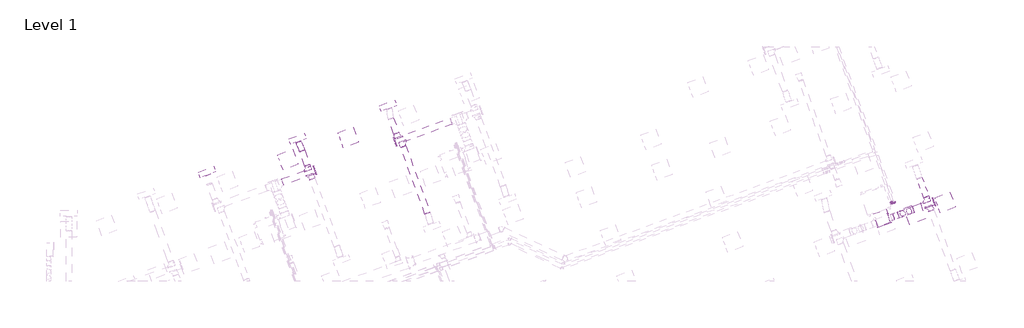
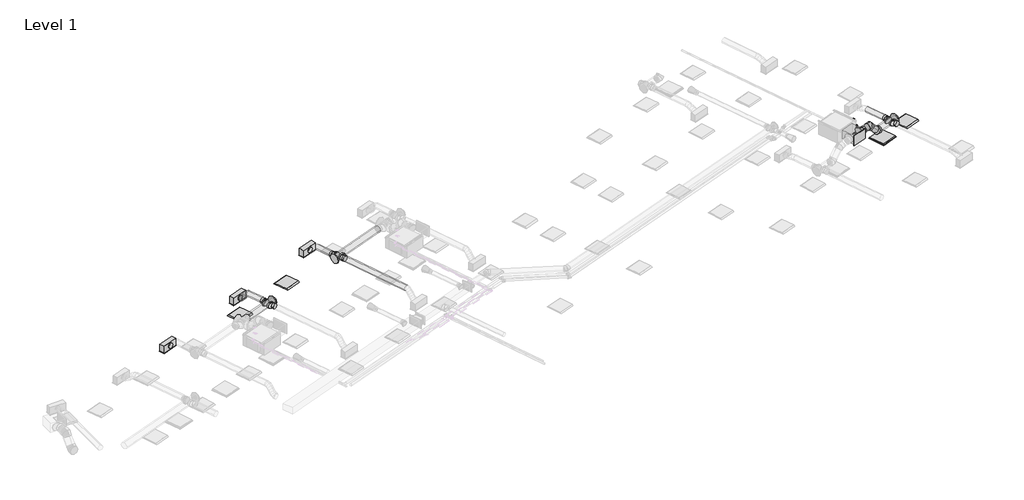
# One storey, part 26 of 30: 13 duct fittings, 11 duct segments, 6 pipe fittings, 4 air terminals, 4 pipe segments, 3 light fixtures.
"""IFC4 building model written with IfcOpenShell, lengths in millimetres."""

from ifc_helpers import new_model, si_unit, point, frame, frame_2d, origin, place, context, project, spatial, polyline, circle_curve, ellipse_curve, trimmed, segment, composite_curve, outline, extrude, transform, mapped, element, save
from ifc_brep_helpers import plane_surface, cylinder_surface, advanced_brep
from components import return_grille_rectangular_hosted_standard_7b12617c, supply_diffuser_with_plenum_linear_slot_hosted_2b730595, dw144_rectangular_blank_end_standard_1669e3e3, dw144_round_blank_end_standard_e3d0b58b, dw144_round_segmented_bend_slip_joint_standard_636bd9c1, dw144_round_shoe_branch_slip_joint1_standard_2_15a2edd8, dw144_round_shoe_branch_slip_joint1_standard_2_559552f4, dw144_round_shoe_branch_slip_joint1_standard_2_4a92c8a1, light_fixture_1c7c1157, elbow_threaded_gmi_standard_b4aa7741, socket_reducing_threaded_gmi_standard_0a4076b8

model = new_model("IFC4")

# Units and contexts
model_context = context("Model", 3, world=origin())
ifc_project = project(units=[si_unit("LENGTHUNIT", "METRE", prefix="MILLI")], contexts=[model_context])

# Site, building, storey
site = spatial("IfcSite", under=ifc_project)
building = spatial("IfcBuilding", under=site)
storey = spatial("IfcBuildingStorey", under=building, Name="Level 1", Elevation=3900.0)

# Air terminals
placement = place(None, origin())
return_grille_rectangular_hosted_standard_shape = return_grille_rectangular_hosted_standard_7b12617c(model_context)
element("IfcAirTerminal", 1, ObjectType="Return Grille - Rectangular - Hosted : Standard", at=placement, inside=storey, context=model_context, shape_type="MappedRepresentation", body=[
    mapped(return_grille_rectangular_hosted_standard_shape, transform((62341.090285, 14748.7465668, 6700.0), x_axis=(0.939692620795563, 0.3420201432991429, 0.0), y_axis=(0.3420201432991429, -0.939692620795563, 0.0), z_axis=(0.0, 0.0, -1.0))),
])
supply_diffuser_with_plenum_linear_slot_hosted_shape = supply_diffuser_with_plenum_linear_slot_hosted_2b730595(model_context)
element("IfcAirTerminal", 2, ObjectType="Supply Diffuser with Plenum - Linear Slot - Hosted : 24\" x 8\"-200 In Inlet  4-Slot", at=placement, inside=storey, context=model_context, shape_type="MappedRepresentation", body=[
    mapped(supply_diffuser_with_plenum_linear_slot_hosted_shape, transform((35915.3297037, 16300.7234338, 6500.0), x_axis=(-0.9396926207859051, -0.3420201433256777, 0.0), y_axis=(-0.3420201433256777, 0.9396926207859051, 0.0), z_axis=(0.0, 0.0, -1.0))),
])
element("IfcAirTerminal", 3, ObjectType="Supply Diffuser with Plenum - Linear Slot - Hosted : 24\" x 8\"-200 In Inlet  4-Slot", at=placement, inside=storey, context=model_context, shape_type="MappedRepresentation", body=[
    mapped(supply_diffuser_with_plenum_linear_slot_hosted_shape, transform((39293.7706156, 17542.574693, 6500.0), x_axis=(-0.9396926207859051, -0.3420201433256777, 0.0), y_axis=(-0.3420201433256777, 0.9396926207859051, 0.0), z_axis=(0.0, 0.0, -1.0))),
])
element("IfcAirTerminal", 4, ObjectType="Supply Diffuser with Plenum - Linear Slot - Hosted : 24\" x 8\"-200 In Inlet  4-Slot", at=placement, inside=storey, context=model_context, shape_type="MappedRepresentation", body=[
    mapped(supply_diffuser_with_plenum_linear_slot_hosted_shape, transform((42674.4758588, 18775.4888623, 6500.0), x_axis=(-0.9396926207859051, -0.3420201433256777, 0.0), y_axis=(-0.3420201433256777, 0.9396926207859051, 0.0), z_axis=(0.0, 0.0, -1.0))),
])

# Duct fittings
dw144_rectangular_blank_end_standard_shape = dw144_rectangular_blank_end_standard_1669e3e3(model_context)
element("IfcDuctFitting", 5, ObjectType="DW144 Rectangular Blank End : Standard", at=placement, inside=storey, context=model_context, shape_type="MappedRepresentation", body=[
    mapped(dw144_rectangular_blank_end_standard_shape, transform((61207.3958712, 14336.1155454, 7369.575), x_axis=(0.34202014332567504, -0.9396926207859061, 0.0), y_axis=(0.9396926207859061, 0.34202014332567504, 0.0), z_axis=(0.0, 0.0, 1.0))),
])
dw144_round_blank_end_standard_shape = dw144_round_blank_end_standard_e3d0b58b(model_context)
element("IfcDuctFitting", 6, ObjectType="DW144 Round Blank End : Standard", at=placement, inside=storey, context=model_context, shape_type="MappedRepresentation", body=[
    mapped(dw144_round_blank_end_standard_shape, transform((39936.3185675, 16357.4162175, 6972.2088531), x_axis=(0.9396926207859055, 0.3420201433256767, 0.0), y_axis=(-0.3420201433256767, 0.9396926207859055, 0.0), z_axis=(0.0, 0.0, 1.0))),
])
element("IfcDuctFitting", 7, ObjectType="DW144 Round Blank End : Standard", at=placement, inside=storey, context=model_context, shape_type="MappedRepresentation", body=[
    mapped(dw144_round_blank_end_standard_shape, transform((42948.5285031, 17437.6115173, 6972.2088531), x_axis=(-0.9396926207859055, -0.3420201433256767, 0.0), y_axis=(0.3420201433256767, -0.9396926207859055, 0.0), z_axis=(0.0, 0.0, 1.0))),
])
element("IfcDuctFitting", 8, ObjectType="DW144 Round Blank End : Standard", at=placement, inside=storey, context=model_context, shape_type="MappedRepresentation", body=[
    mapped(dw144_round_blank_end_standard_shape, transform((63040.2710121, 15178.5710827, 6972.2088531), x_axis=(0.9396926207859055, 0.3420201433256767, 0.0), y_axis=(-0.3420201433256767, 0.9396926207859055, 0.0), z_axis=(0.0, 0.0, 1.0))),
])
dw144_round_segmented_bend_slip_joint_standard_shape = dw144_round_segmented_bend_slip_joint_standard_636bd9c1(model_context)
element("IfcDuctFitting", 9, ObjectType="DW144 Round Segmented Bend - Slip Joint : Standard", at=placement, inside=storey, context=model_context, shape_type="MappedRepresentation", body=[
    mapped(dw144_round_segmented_bend_slip_joint_standard_shape, transform((62192.3208978, 14869.9424809, 6972.2088531), x_axis=(0.6644630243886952, 0.24184476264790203, -0.7071067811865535), y_axis=(0.6644630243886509, 0.2418447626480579, 0.7071067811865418), z_axis=(0.3420201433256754, -0.939692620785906, 0.0))),
])
element("IfcDuctFitting", 10, ObjectType="DW144 Round Segmented Bend - Slip Joint : Standard", at=placement, inside=storey, context=model_context, shape_type="MappedRepresentation", body=[
    mapped(dw144_round_segmented_bend_slip_joint_standard_shape, transform((61818.9188618, 14734.0352544, 7369.575), x_axis=(0.9396926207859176, 0.3420201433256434, 0.0), y_axis=(0.0, 0.0, -1.0), z_axis=(-0.3420201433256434, 0.9396926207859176, 0.0))),
])
dw144_round_shoe_branch_slip_joint1_standard_2_shape = dw144_round_shoe_branch_slip_joint1_standard_2_15a2edd8(model_context)
element("IfcDuctFitting", 11, ObjectType="DW144 Round Shoe Branch - Slip Joint1 : Standard 2", at=placement, inside=storey, context=model_context, shape_type="MappedRepresentation", body=[
    mapped(dw144_round_shoe_branch_slip_joint1_standard_2_shape, transform((39717.3209662, 16410.7298308, 6972.2088531), x_axis=(-0.3420201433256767, 0.9396926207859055, 0.0), y_axis=(0.9396926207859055, 0.3420201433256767, 0.0), z_axis=(0.0, 0.0, -1.0))),
])
element("IfcDuctFitting", 12, ObjectType="DW144 Round Shoe Branch - Slip Joint1 : Standard 2", at=placement, inside=storey, context=model_context, shape_type="MappedRepresentation", body=[
    mapped(dw144_round_shoe_branch_slip_joint1_standard_2_shape, transform((39802.826002, 16175.8066756, 6972.2088531), x_axis=(0.3420201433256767, -0.9396926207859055, 0.0), y_axis=(0.9396926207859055, 0.3420201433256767, 0.0), z_axis=(0.0, 0.0, 1.0))),
])
element("IfcDuctFitting", 13, ObjectType="DW144 Round Shoe Branch - Slip Joint1 : Standard 2", at=placement, inside=storey, context=model_context, shape_type="MappedRepresentation", body=[
    mapped(dw144_round_shoe_branch_slip_joint1_standard_2_shape, transform((62821.2734108, 15231.884696, 6972.2088531), x_axis=(-0.3420201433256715, 0.9396926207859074, 0.0), y_axis=(0.9396926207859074, 0.3420201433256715, 0.0), z_axis=(0.0, 0.0, -1.0))),
])
element("IfcDuctFitting", 14, ObjectType="DW144 Round Shoe Branch - Slip Joint1 : Standard 2", at=placement, inside=storey, context=model_context, shape_type="MappedRepresentation", body=[
    mapped(dw144_round_shoe_branch_slip_joint1_standard_2_shape, transform((62906.7784467, 14996.9615408, 6972.2088531), x_axis=(0.3420201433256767, -0.9396926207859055, 0.0), y_axis=(0.9396926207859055, 0.3420201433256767, 0.0), z_axis=(0.0, 0.0, 1.0))),
])
dw144_round_shoe_branch_slip_joint1_standard_2_2_shape = dw144_round_shoe_branch_slip_joint1_standard_2_559552f4(model_context)
element("IfcDuctFitting", 15, ObjectType="DW144 Round Shoe Branch - Slip Joint1 : Standard 2", at=placement, inside=storey, context=model_context, shape_type="MappedRepresentation", body=[
    mapped(dw144_round_shoe_branch_slip_joint1_standard_2_2_shape, transform((43036.855796, 17602.7822443, 6972.2088531), x_axis=(-0.3420201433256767, 0.9396926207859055, 0.0), y_axis=(0.9396926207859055, 0.3420201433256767, 0.0), z_axis=(0.0, 0.0, -1.0))),
])
element("IfcDuctFitting", 16, ObjectType="DW144 Round Shoe Branch - Slip Joint1 : Standard 2", at=placement, inside=storey, context=model_context, shape_type="MappedRepresentation", body=[
    mapped(dw144_round_shoe_branch_slip_joint1_standard_2_2_shape, transform((43190.912986, 17392.8100327, 6972.2088531), x_axis=(0.3420201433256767, -0.9396926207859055, 0.0), y_axis=(0.9396926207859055, 0.3420201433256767, 0.0), z_axis=(0.0, 0.0, 1.0))),
])
dw144_round_shoe_branch_slip_joint1_standard_2_3_shape = dw144_round_shoe_branch_slip_joint1_standard_2_4a92c8a1(model_context)
element("IfcDuctFitting", 17, ObjectType="DW144 Round Shoe Branch - Slip Joint1 : Standard 2", at=placement, inside=storey, context=model_context, shape_type="MappedRepresentation", body=[
    mapped(dw144_round_shoe_branch_slip_joint1_standard_2_3_shape, transform((61385.964698, 14576.452826, 7369.575), x_axis=(0.9396926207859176, 0.3420201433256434, 0.0), y_axis=(0.3420201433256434, -0.9396926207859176, 0.0), z_axis=(0.0, 0.0, -1.0))),
])

# Duct segments
element("IfcDuctSegment", 18, ObjectType="DW144 Flanged Med Radius Bend / Shoe Branch", at=placement, inside=storey, context=model_context, shape_type="SweptSolid", body=[
    extrude(outline(polyline([(60794.7590495, 14738.8747953), (61264.6053599, 14909.884867), (61442.3190264, 14421.6205812), (60972.472716, 14250.6105095), (60794.7590495, 14738.8747953)])), frame((0.0, 0.0, 7194.575), z_axis=(0.0, 0.0, 1.0), x_axis=(1.0, 0.0, 0.0)), (0.0, 0.0, 1.0), 350.0),
])
element("IfcDuctSegment", 19, ObjectType="DW144 Segmented Bend / Shoe Branch", at=placement, inside=storey, context=model_context, shape_type="SweptSolid", body=[
    extrude(outline(composite_curve([segment(trimmed(circle_curve(frame_2d((0.0, 125.0)), 125.0), [point((125.0, 125.0))], [point((0.0, 0.0))], False, "CARTESIAN"), True, "CONTINUOUS"), segment(trimmed(circle_curve(frame_2d((0.0, 125.0)), 125.0), [point((0.0, 0.0))], [point((-125.0, 125.0))], False, "CARTESIAN"), True, "CONTINUOUS"), segment(trimmed(circle_curve(frame_2d((0.0, 125.0)), 125.0), [point((-125.0, 125.0))], [point((0.0, 250.0))], False, "CARTESIAN"), True, "CONTINUOUS"), segment(trimmed(circle_curve(frame_2d((0.0, 125.0)), 125.0), [point((0.0, 250.0))], [point((125.0, 125.0))], False, "CARTESIAN"), True, "CONTINUOUS")], self_intersect=False)), frame((38741.1276812, 15922.4023106, 7097.2088531), z_axis=(0.9396926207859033, 0.3420201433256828, 0.0), x_axis=(0.3420201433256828, -0.9396926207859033, 0.0)), (0.0, 0.0, 1.0), 1271.8955751),
])
element("IfcDuctSegment", 20, ObjectType="DW144 Segmented Bend / Shoe Branch", at=placement, inside=storey, context=model_context, shape_type="SweptSolid", body=[
    extrude(outline(composite_curve([segment(trimmed(circle_curve(frame_2d((0.0, 100.0)), 100.0), [point((100.0, 100.0))], [point((0.0, 0.0))], False, "CARTESIAN"), True, "CONTINUOUS"), segment(trimmed(circle_curve(frame_2d((0.0, 100.0)), 100.0), [point((0.0, 0.0))], [point((-100.0, 100.0))], False, "CARTESIAN"), True, "CONTINUOUS"), segment(trimmed(circle_curve(frame_2d((0.0, 100.0)), 100.0), [point((-100.0, 100.0))], [point((0.0, 200.0))], False, "CARTESIAN"), True, "CONTINUOUS"), segment(trimmed(circle_curve(frame_2d((0.0, 100.0)), 100.0), [point((0.0, 200.0))], [point((100.0, 100.0))], False, "CARTESIAN"), True, "CONTINUOUS")], self_intersect=False)), frame((39666.0179447, 16551.683724, 7072.2088531), z_axis=(-0.3420201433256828, 0.9396926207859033, 0.0), x_axis=(0.9396926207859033, 0.3420201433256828, 0.0)), (0.0, 0.0, 1.0), 574.8150783),
])
element("IfcDuctSegment", 21, ObjectType="DW144 Segmented Bend / Shoe Branch", at=placement, inside=storey, context=model_context, shape_type="SweptSolid", body=[
    extrude(outline(composite_curve([segment(trimmed(circle_curve(frame_2d((0.0, -125.0)), 125.0), [point((-125.0, -125.0))], [point((0.0, 0.0))], False, "CARTESIAN"), True, "CONTINUOUS"), segment(trimmed(circle_curve(frame_2d((0.0, -125.0)), 125.0), [point((0.0, 0.0))], [point((125.0, -125.0))], False, "CARTESIAN"), True, "CONTINUOUS"), segment(trimmed(circle_curve(frame_2d((0.0, -125.0)), 125.0), [point((125.0, -125.0))], [point((0.0, -250.0))], False, "CARTESIAN"), True, "CONTINUOUS"), segment(trimmed(circle_curve(frame_2d((0.0, -125.0)), 125.0), [point((0.0, -250.0))], [point((-125.0, -125.0))], False, "CARTESIAN"), True, "CONTINUOUS")], self_intersect=False)), frame((42948.5285031, 17437.6115173, 6847.2088531), z_axis=(0.9396926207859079, 0.3420201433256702, 0.0), x_axis=(0.3420201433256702, -0.9396926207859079, 0.0)), (0.0, 0.0, 1.0), 2211.3668834),
])
element("IfcDuctSegment", 22, ObjectType="DW144 Segmented Bend / Shoe Branch", at=placement, inside=storey, context=model_context, shape_type="SweptSolid", body=[
    extrude(outline(composite_curve([segment(trimmed(circle_curve(frame_2d((0.0, -100.0)), 100.0), [point((-100.0, -100.0))], [point((0.0, 0.0))], False, "CARTESIAN"), True, "CONTINUOUS"), segment(trimmed(circle_curve(frame_2d((0.0, -100.0)), 100.0), [point((0.0, 0.0))], [point((100.0, -100.0))], False, "CARTESIAN"), True, "CONTINUOUS"), segment(trimmed(circle_curve(frame_2d((0.0, -100.0)), 100.0), [point((100.0, -100.0))], [point((0.0, -200.0))], False, "CARTESIAN"), True, "CONTINUOUS"), segment(trimmed(circle_curve(frame_2d((0.0, -100.0)), 100.0), [point((0.0, -200.0))], [point((-100.0, -100.0))], False, "CARTESIAN"), True, "CONTINUOUS")], self_intersect=False)), frame((42985.5527745, 17743.7361374, 6872.2088531), z_axis=(-0.34202014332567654, 0.9396926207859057, 0.0), x_axis=(0.9396926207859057, 0.34202014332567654, 0.0)), (0.0, 0.0, 1.0), 590.0),
])
element("IfcDuctSegment", 23, ObjectType="DW144 Segmented Bend / Shoe Branch", at=placement, inside=storey, context=model_context, shape_type="SweptSolid", body=[
    extrude(outline(composite_curve([segment(trimmed(circle_curve(frame_2d((0.0, 100.0)), 100.0), [point((100.0, 100.0))], [point((0.0, 0.0))], False, "CARTESIAN"), True, "CONTINUOUS"), segment(trimmed(circle_curve(frame_2d((0.0, 100.0)), 100.0), [point((0.0, 0.0))], [point((-100.0, 100.0))], False, "CARTESIAN"), True, "CONTINUOUS"), segment(trimmed(circle_curve(frame_2d((0.0, 100.0)), 100.0), [point((-100.0, 100.0))], [point((0.0, 200.0))], False, "CARTESIAN"), True, "CONTINUOUS"), segment(trimmed(circle_curve(frame_2d((0.0, 100.0)), 100.0), [point((0.0, 200.0))], [point((100.0, 100.0))], False, "CARTESIAN"), True, "CONTINUOUS")], self_intersect=False)), frame((44148.5693873, 14761.6706945, 7072.2088531), z_axis=(-0.34202014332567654, 0.9396926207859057, 0.0), x_axis=(0.9396926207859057, 0.34202014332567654, 0.0)), (0.0, 0.0, 1.0), 2650.0),
])
element("IfcDuctSegment", 24, ObjectType="DW144 Segmented Bend / Shoe Branch", at=placement, inside=storey, context=model_context, shape_type="SweptSolid", body=[
    extrude(outline(composite_curve([segment(trimmed(circle_curve(frame_2d((0.0, -125.0)), 125.0), [point((-125.0, -125.0))], [point((0.0, 0.0))], False, "CARTESIAN"), True, "CONTINUOUS"), segment(trimmed(circle_curve(frame_2d((0.0, -125.0)), 125.0), [point((0.0, 0.0))], [point((125.0, -125.0))], False, "CARTESIAN"), True, "CONTINUOUS"), segment(trimmed(circle_curve(frame_2d((0.0, -125.0)), 125.0), [point((125.0, -125.0))], [point((0.0, -250.0))], False, "CARTESIAN"), True, "CONTINUOUS"), segment(trimmed(circle_curve(frame_2d((0.0, -125.0)), 125.0), [point((0.0, -250.0))], [point((-125.0, -125.0))], False, "CARTESIAN"), True, "CONTINUOUS")], self_intersect=False)), frame((62289.6292548, 14905.3598264, 6847.2088531), z_axis=(0.9396926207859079, 0.3420201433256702, 0.0), x_axis=(0.3420201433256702, -0.9396926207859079, 0.0)), (0.0, 0.0, 1.0), 798.8162732),
])
element("IfcDuctSegment", 25, ObjectType="DW144 Segmented Bend / Shoe Branch", at=placement, inside=storey, context=model_context, shape_type="SweptSolid", body=[
    extrude(outline(composite_curve([segment(trimmed(circle_curve(frame_2d((0.0, 100.0)), 100.0), [point((100.0, 100.0))], [point((0.0, 0.0))], False, "CARTESIAN"), True, "CONTINUOUS"), segment(trimmed(circle_curve(frame_2d((0.0, 100.0)), 100.0), [point((0.0, 0.0))], [point((-100.0, 100.0))], False, "CARTESIAN"), True, "CONTINUOUS"), segment(trimmed(circle_curve(frame_2d((0.0, 100.0)), 100.0), [point((-100.0, 100.0))], [point((0.0, 200.0))], False, "CARTESIAN"), True, "CONTINUOUS"), segment(trimmed(circle_curve(frame_2d((0.0, 100.0)), 100.0), [point((0.0, 200.0))], [point((100.0, 100.0))], False, "CARTESIAN"), True, "CONTINUOUS")], self_intersect=False)), frame((62769.9703893, 15372.8385891, 7072.2088531), z_axis=(-0.3420201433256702, 0.9396926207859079, 0.0), x_axis=(0.9396926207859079, 0.3420201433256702, 0.0)), (0.0, 0.0, 1.0), 750.0),
])
element("IfcDuctSegment", 26, ObjectType="DW144 Segmented Bend / Shoe Branch", at=placement, inside=storey, context=model_context, shape_type="SweptSolid", body=[
    extrude(outline(composite_curve([segment(trimmed(circle_curve(frame_2d((0.0, 125.0)), 125.0), [point((125.0, 125.0))], [point((0.0, 0.0))], False, "CARTESIAN"), True, "CONTINUOUS"), segment(trimmed(circle_curve(frame_2d((0.0, 125.0)), 125.0), [point((0.0, 0.0))], [point((-125.0, 125.0))], False, "CARTESIAN"), True, "CONTINUOUS"), segment(trimmed(circle_curve(frame_2d((0.0, 125.0)), 125.0), [point((-125.0, 125.0))], [point((0.0, 250.0))], False, "CARTESIAN"), True, "CONTINUOUS"), segment(trimmed(circle_curve(frame_2d((0.0, 125.0)), 125.0), [point((0.0, 250.0))], [point((125.0, 125.0))], False, "CARTESIAN"), True, "CONTINUOUS")], self_intersect=False)), frame((61550.4109066, 14636.3063511, 7494.575), z_axis=(0.9396926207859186, 0.3420201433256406, 0.0), x_axis=(0.3420201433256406, -0.9396926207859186, 0.0)), (0.0, 0.0, 1.0), 182.1868071),
])
element("IfcDuctSegment", 27, ObjectType="DW144 Segmented Bend / Shoe Branch", at=placement, inside=storey, context=model_context, shape_type="SweptSolid", body=[
    extrude(outline(composite_curve([segment(trimmed(circle_curve(frame_2d((0.0, -125.0)), 125.0), [point((57.2076922, -236.1408113))], [point((-111.1408113, -182.2076923))], False, "CARTESIAN"), True, "CONTINUOUS"), segment(trimmed(circle_curve(frame_2d((0.0, -125.0)), 125.0), [point((-111.1408113, -182.2076923))], [point((-57.2076923, -13.8591886))], False, "CARTESIAN"), True, "CONTINUOUS"), segment(trimmed(circle_curve(frame_2d((0.0, -125.0)), 125.0), [point((-57.2076923, -13.8591886))], [point((111.1408113, -67.7923077))], False, "CARTESIAN"), True, "CONTINUOUS"), segment(trimmed(circle_curve(frame_2d((0.0, -125.0)), 125.0), [point((111.1408113, -67.7923077))], [point((57.2076922, -236.1408113))], False, "CARTESIAN"), True, "CONTINUOUS")], self_intersect=False)), frame((62123.5134987, 14963.1722168, 7085.884105), z_axis=(-0.6644630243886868, -0.2418447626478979, 0.7071067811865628), x_axis=(0.7473211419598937, -0.21503058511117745, 0.6287073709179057)), (0.0, 0.0, 1.0), 354.8538129),
])
element("IfcDuctSegment", 28, ObjectType="Flex - Round", at=placement, inside=storey, context=model_context, shape_type="AdvancedBrep", body=[
    advanced_brep(
    [(39375.4503472, 17057.631197, 6972.2088531), (39469.4196093, 17091.8332113, 6872.2088531), (39563.3888713, 17126.0352256, 6972.2088531), (39469.4196093, 17091.8332113, 7072.2088531), (39366.3301142, 17082.6888311, 6972.2088531), (39468.3328328, 17094.819105, 6872.2088531), (39553.698373, 17152.659651, 6972.2088531), (39451.6956544, 17140.5293771, 7072.2088531), (39243.2379118, 17389.0317158, 6654.4), (39337.2071738, 17423.2337302, 6754.4), (39431.1764359, 17457.4357445, 6654.4), (39337.2071738, 17423.2337302, 6554.4), (39354.5213218, 17113.4271666, 6955.185411), (39467.8816463, 17095.9935454, 6871.5584269), (39541.0833461, 17185.4966182, 6954.0231511), (39427.7230216, 17202.9302395, 7037.6501352), (39335.857994, 17160.2082162, 6910.3229836), (39455.5339882, 17126.943889, 6841.8774438), (39521.9716923, 17233.4014312, 6908.0830491), (39402.2956981, 17266.6657584, 6976.5285889), (39318.7177747, 17201.1185794, 6848.6374231), (39441.476074, 17160.4973904, 6791.284724), (39504.6126715, 17274.8340307, 6845.6100489), (39381.8543722, 17315.4552197, 6902.962748), (39302.0141116, 17240.2329107, 6780.9988043), (39424.7724109, 17199.6117217, 6723.6461052), (39487.9090084, 17313.9483621, 6777.97143), (39365.150709, 17354.5695511, 6835.3241291), (39284.6550908, 17281.6655103, 6718.525804), (39404.331085, 17248.401183, 6650.0802642), (39470.7687891, 17354.8587252, 6716.2858695), (39351.0927949, 17388.1230525, 6784.7314093), (39265.543437, 17329.5703232, 6672.585702), (39378.9037615, 17312.136702, 6588.9587179), (39452.1054613, 17401.6397748, 6671.4234421), (39338.7451368, 17419.0733961, 6755.0504262), (39252.9284101, 17362.4072904, 6654.4), (39354.9311287, 17374.5375643, 6554.4), (39440.2966689, 17432.3781104, 6654.4), (39338.2939503, 17420.2478365, 6754.4)],
    [
        (0, 1, circle_curve(frame((39469.4196093, 17091.8332113, 6972.2088531), z_axis=(0.3420201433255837, -0.9396926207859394, 0.0), x_axis=(-0.9396926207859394, -0.3420201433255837, 0.0)), 100.0)),
        (1, 2, circle_curve(frame((39469.4196093, 17091.8332113, 6972.2088531), z_axis=(0.3420201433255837, -0.9396926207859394, 0.0), x_axis=(-0.9396926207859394, -0.3420201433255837, 0.0)), 100.0)),
        (2, 3, circle_curve(frame((39469.4196093, 17091.8332113, 6972.2088531), z_axis=(0.3420201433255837, -0.9396926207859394, 0.0), x_axis=(-0.9396926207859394, -0.3420201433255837, 0.0)), 100.0)),
        (3, 0, circle_curve(frame((39469.4196093, 17091.8332113, 6972.2088531), z_axis=(0.3420201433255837, -0.9396926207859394, 0.0), x_axis=(-0.9396926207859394, -0.3420201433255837, 0.0)), 100.0)),
        (0, 4),
        (4, 5, ellipse_curve(frame((39460.0142436, 17117.6742411, 6972.2088531), z_axis=(0.3399326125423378, -0.9102734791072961, 0.23632184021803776), x_axis=(0.049596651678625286, -0.2335844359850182, -0.9710707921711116)), 102.9186629, 100.0)),
        (5, 1),
        (5, 6, ellipse_curve(frame((39460.0142436, 17117.6742411, 6972.2088531), z_axis=(0.3399326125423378, -0.9102734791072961, 0.23632184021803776), x_axis=(0.049596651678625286, -0.2335844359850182, -0.9710707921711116)), 102.9186629, 100.0)),
        (6, 2),
        (6, 7, ellipse_curve(frame((39460.0142436, 17117.6742411, 6972.2088531), z_axis=(0.3399326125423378, -0.9102734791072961, 0.23632184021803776), x_axis=(0.049596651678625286, -0.2335844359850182, -0.9710707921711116)), 102.9186629, 100.0)),
        (7, 3),
        (7, 4, ellipse_curve(frame((39460.0142436, 17117.6742411, 6972.2088531), z_axis=(0.3399326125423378, -0.9102734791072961, 0.23632184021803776), x_axis=(0.049596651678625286, -0.2335844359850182, -0.9710707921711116)), 102.9186629, 100.0)),
        (8, 9, circle_curve(frame((39337.2071738, 17423.2337302, 6654.4), z_axis=(-0.342020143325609, 0.9396926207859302, 0.0), x_axis=(-0.9396926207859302, -0.342020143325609, 0.0)), 100.0)),
        (9, 10, circle_curve(frame((39337.2071738, 17423.2337302, 6654.4), z_axis=(-0.342020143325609, 0.9396926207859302, 0.0), x_axis=(-0.9396926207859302, -0.342020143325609, 0.0)), 100.0)),
        (10, 11, circle_curve(frame((39337.2071738, 17423.2337302, 6654.4), z_axis=(-0.342020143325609, 0.9396926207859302, 0.0), x_axis=(-0.9396926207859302, -0.342020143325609, 0.0)), 100.0)),
        (11, 8, circle_curve(frame((39337.2071738, 17423.2337302, 6654.4), z_axis=(-0.342020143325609, 0.9396926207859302, 0.0), x_axis=(-0.9396926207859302, -0.342020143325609, 0.0)), 100.0)),
        (4, 12),
        (12, 13, ellipse_curve(frame((39447.8023339, 17149.4618924, 6954.6042811), z_axis=(0.2999875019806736, -0.7674222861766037, 0.5666308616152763), x_axis=(0.16739625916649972, -0.542422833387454, -0.8232593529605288)), 100.791087, 100.0)),
        (13, 5),
        (13, 14, ellipse_curve(frame((39447.8023339, 17149.4618924, 6954.6042811), z_axis=(0.2999875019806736, -0.7674222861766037, 0.5666308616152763), x_axis=(0.16739625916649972, -0.542422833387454, -0.8232593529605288)), 100.791087, 100.0)),
        (14, 6),
        (14, 15, ellipse_curve(frame((39447.8023339, 17149.4618924, 6954.6042811), z_axis=(0.2999875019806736, -0.7674222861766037, 0.5666308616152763), x_axis=(0.16739625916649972, -0.542422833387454, -0.8232593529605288)), 100.791087, 100.0)),
        (15, 7),
        (15, 12, ellipse_curve(frame((39447.8023339, 17149.4618924, 6954.6042811), z_axis=(0.2999875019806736, -0.7674222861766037, 0.5666308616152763), x_axis=(0.16739625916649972, -0.542422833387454, -0.8232593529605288)), 100.791087, 100.0)),
        (12, 16),
        (16, 17, ellipse_curve(frame((39428.9148432, 17196.8048237, 6909.2030164), z_axis=(0.2526762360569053, -0.6197600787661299, 0.743002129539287), x_axis=(0.23274176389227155, -0.7064396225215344, -0.6684117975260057)), 100.6081755, 100.0)),
        (17, 13),
        (17, 18, ellipse_curve(frame((39428.9148432, 17196.8048237, 6909.2030164), z_axis=(0.2526762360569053, -0.6197600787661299, 0.743002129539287), x_axis=(0.23274176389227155, -0.7064396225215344, -0.6684117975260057)), 100.6081755, 100.0)),
        (18, 14),
        (18, 19, ellipse_curve(frame((39428.9148432, 17196.8048237, 6909.2030164), z_axis=(0.2526762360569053, -0.6197600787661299, 0.743002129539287), x_axis=(0.23274176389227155, -0.7064396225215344, -0.6684117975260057)), 100.6081755, 100.0)),
        (19, 15),
        (19, 16, ellipse_curve(frame((39428.9148432, 17196.8048237, 6909.2030164), z_axis=(0.2526762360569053, -0.6197600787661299, 0.743002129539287), x_axis=(0.23274176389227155, -0.7064396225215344, -0.6684117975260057)), 100.6081755, 100.0)),
        (16, 20),
        (20, 21, ellipse_curve(frame((39411.6652231, 17237.976305, 6847.123736), z_axis=(0.21743261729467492, -0.5142482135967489, 0.8296214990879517), x_axis=(0.2659644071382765, -0.7865801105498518, -0.5572743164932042)), 100.0483666, 100.0)),
        (21, 17),
        (21, 22, ellipse_curve(frame((39411.6652231, 17237.976305, 6847.123736), z_axis=(0.21743261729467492, -0.5142482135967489, 0.8296214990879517), x_axis=(0.2659644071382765, -0.7865801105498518, -0.5572743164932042)), 100.0483666, 100.0)),
        (22, 18),
        (22, 23, ellipse_curve(frame((39411.6652231, 17237.976305, 6847.123736), z_axis=(0.21743261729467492, -0.5142482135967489, 0.8296214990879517), x_axis=(0.2659644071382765, -0.7865801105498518, -0.5572743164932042)), 100.0483666, 100.0)),
        (23, 19),
        (23, 20, ellipse_curve(frame((39411.6652231, 17237.976305, 6847.123736), z_axis=(0.21743261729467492, -0.5142482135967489, 0.8296214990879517), x_axis=(0.2659644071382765, -0.7865801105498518, -0.5572743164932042)), 100.0483666, 100.0)),
        (20, 24),
        (24, 25, ellipse_curve(frame((39394.96156, 17277.0906364, 6779.4851171), z_axis=(0.21743261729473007, -0.5142482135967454, 0.8296214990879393), x_axis=(-0.26596440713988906, 0.7865801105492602, 0.5572743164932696)), 100.0483666, 100.0)),
        (25, 21),
        (25, 26, ellipse_curve(frame((39394.96156, 17277.0906364, 6779.4851171), z_axis=(0.21743261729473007, -0.5142482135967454, 0.8296214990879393), x_axis=(-0.26596440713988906, 0.7865801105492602, 0.5572743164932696)), 100.0483666, 100.0)),
        (26, 22),
        (26, 27, ellipse_curve(frame((39394.96156, 17277.0906364, 6779.4851171), z_axis=(0.21743261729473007, -0.5142482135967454, 0.8296214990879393), x_axis=(-0.26596440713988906, 0.7865801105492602, 0.5572743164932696)), 100.0483666, 100.0)),
        (27, 23),
        (27, 24, ellipse_curve(frame((39394.96156, 17277.0906364, 6779.4851171), z_axis=(0.21743261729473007, -0.5142482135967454, 0.8296214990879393), x_axis=(-0.26596440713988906, 0.7865801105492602, 0.5572743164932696)), 100.0483666, 100.0)),
        (24, 28),
        (28, 29, ellipse_curve(frame((39377.7119399, 17318.2621178, 6717.4058368), z_axis=(0.2526762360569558, -0.6197600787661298, 0.7430021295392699), x_axis=(-0.23274176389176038, 0.7064396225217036, 0.6684117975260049)), 100.6081755, 100.0)),
        (29, 25),
        (29, 30, ellipse_curve(frame((39377.7119399, 17318.2621178, 6717.4058368), z_axis=(0.2526762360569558, -0.6197600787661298, 0.7430021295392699), x_axis=(-0.23274176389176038, 0.7064396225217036, 0.6684117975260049)), 100.6081755, 100.0)),
        (30, 26),
        (30, 31, ellipse_curve(frame((39377.7119399, 17318.2621178, 6717.4058368), z_axis=(0.2526762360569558, -0.6197600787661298, 0.7430021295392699), x_axis=(-0.23274176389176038, 0.7064396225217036, 0.6684117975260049)), 100.6081755, 100.0)),
        (31, 27),
        (31, 28, ellipse_curve(frame((39377.7119399, 17318.2621178, 6717.4058368), z_axis=(0.2526762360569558, -0.6197600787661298, 0.7430021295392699), x_axis=(-0.23274176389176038, 0.7064396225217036, 0.6684117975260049)), 100.6081755, 100.0)),
        (28, 32),
        (32, 33, ellipse_curve(frame((39358.8244492, 17365.605049, 6672.004572), z_axis=(0.2999875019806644, -0.7674222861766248, 0.5666308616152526), x_axis=(-0.16739625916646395, 0.5424228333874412, 0.8232593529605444)), 100.791087, 100.0)),
        (33, 29),
        (33, 34, ellipse_curve(frame((39358.8244492, 17365.605049, 6672.004572), z_axis=(0.2999875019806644, -0.7674222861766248, 0.5666308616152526), x_axis=(-0.16739625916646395, 0.5424228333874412, 0.8232593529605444)), 100.791087, 100.0)),
        (34, 30),
        (34, 35, ellipse_curve(frame((39358.8244492, 17365.605049, 6672.004572), z_axis=(0.2999875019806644, -0.7674222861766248, 0.5666308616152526), x_axis=(-0.16739625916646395, 0.5424228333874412, 0.8232593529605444)), 100.791087, 100.0)),
        (35, 31),
        (35, 32, ellipse_curve(frame((39358.8244492, 17365.605049, 6672.004572), z_axis=(0.2999875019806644, -0.7674222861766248, 0.5666308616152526), x_axis=(-0.16739625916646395, 0.5424228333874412, 0.8232593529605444)), 100.791087, 100.0)),
        (32, 36),
        (36, 37, ellipse_curve(frame((39346.6125395, 17397.3927004, 6654.4), z_axis=(0.3399326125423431, -0.9102734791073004, 0.23632184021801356), x_axis=(-0.04959665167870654, 0.2335844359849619, 0.9710707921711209)), 102.9186629, 100.0)),
        (37, 33),
        (37, 38, ellipse_curve(frame((39346.6125395, 17397.3927004, 6654.4), z_axis=(0.3399326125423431, -0.9102734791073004, 0.23632184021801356), x_axis=(-0.04959665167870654, 0.2335844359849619, 0.9710707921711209)), 102.9186629, 100.0)),
        (38, 34),
        (38, 39, ellipse_curve(frame((39346.6125395, 17397.3927004, 6654.4), z_axis=(0.3399326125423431, -0.9102734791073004, 0.23632184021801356), x_axis=(-0.04959665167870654, 0.2335844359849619, 0.9710707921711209)), 102.9186629, 100.0)),
        (39, 35),
        (39, 36, ellipse_curve(frame((39346.6125395, 17397.3927004, 6654.4), z_axis=(0.3399326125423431, -0.9102734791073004, 0.23632184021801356), x_axis=(-0.04959665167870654, 0.2335844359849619, 0.9710707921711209)), 102.9186629, 100.0)),
        (36, 8),
        (11, 37),
        (10, 38),
        (9, 39),
    ],
    [
        plane_surface(frame((39469.4196093, 17091.8332113, 7072.2088531), z_axis=(0.34202014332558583, -0.9396926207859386, 0.0), x_axis=(0.9396926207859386, 0.34202014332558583, 0.0))),
        cylinder_surface(frame((39469.4196093, 17091.8332113, 6972.2088531), z_axis=(0.3420201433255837, -0.9396926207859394, 0.0), x_axis=(-0.9396926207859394, -0.3420201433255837, 0.0)), 100.0),
        plane_surface(frame((39337.2071738, 17423.2337302, 6754.4), z_axis=(-0.342020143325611, 0.9396926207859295, 0.0), x_axis=(0.9396926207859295, 0.342020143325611, 0.0))),
        cylinder_surface(frame((39460.0142436, 17117.6742411, 6972.2088531), z_axis=(0.31856483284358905, -0.8292255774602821, 0.4592400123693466), x_axis=(-0.9341855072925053, -0.35676712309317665, 0.0038285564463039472)), 100.0),
        cylinder_surface(frame((39447.8023339, 17149.4618924, 6954.6042811), z_axis=(0.276701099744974, -0.6935723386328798, 0.6651269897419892), x_axis=(-0.9316154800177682, -0.3633417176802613, 0.008682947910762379)), 100.0),
        cylinder_surface(frame((39428.9148432, 17196.8048237, 6909.2030164), z_axis=(0.22559652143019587, -0.5384549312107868, 0.8118943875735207), x_axis=(-0.9297148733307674, -0.3680034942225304, 0.014271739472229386)), 100.0),
        cylinder_surface(frame((39411.6652231, 17237.976305, 6847.123736), z_axis=(0.20905848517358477, -0.48954428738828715, 0.8465464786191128), x_axis=(-0.9292517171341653, -0.36909890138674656, 0.016038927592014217)), 100.0),
        cylinder_surface(frame((39394.96156, 17277.0906364, 6779.4851171), z_axis=(0.22559652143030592, -0.5384549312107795, 0.8118943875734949), x_axis=(-0.9297148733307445, -0.36800349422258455, 0.014271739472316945)), 100.0),
        cylinder_surface(frame((39377.7119399, 17318.2621178, 6717.4058368), z_axis=(0.276701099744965, -0.693572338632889, 0.6651269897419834), x_axis=(-0.9316154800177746, -0.3633417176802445, 0.008682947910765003)), 100.0),
        cylinder_surface(frame((39358.8244492, 17365.605049, 6672.004572), z_axis=(0.31856483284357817, -0.8292255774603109, 0.4592400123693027), x_axis=(-0.9341855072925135, -0.3567671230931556, 0.0038285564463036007)), 100.0),
        cylinder_surface(frame((39346.6125395, 17397.3927004, 6654.4), z_axis=(0.342020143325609, -0.9396926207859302, 0.0), x_axis=(-0.9396926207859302, -0.342020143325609, 0.0)), 100.0),
    ],
    [
        (0, [[1, 2, 3, 4]]),
        (1, [[-1, 5, 6, 7]]),
        (1, [[-2, -7, 8, 9]]),
        (1, [[-3, -9, 10, 11]]),
        (1, [[-4, -11, 12, -5]]),
        (2, [[13, 14, 15, 16]]),
        (3, [[-6, 17, 18, 19]]),
        (3, [[-8, -19, 20, 21]]),
        (3, [[-10, -21, 22, 23]]),
        (3, [[-12, -23, 24, -17]]),
        (4, [[-18, 25, 26, 27]]),
        (4, [[-20, -27, 28, 29]]),
        (4, [[-22, -29, 30, 31]]),
        (4, [[-24, -31, 32, -25]]),
        (5, [[-26, 33, 34, 35]]),
        (5, [[-28, -35, 36, 37]]),
        (5, [[-30, -37, 38, 39]]),
        (5, [[-32, -39, 40, -33]]),
        (6, [[-34, 41, 42, 43]]),
        (6, [[-36, -43, 44, 45]]),
        (6, [[-38, -45, 46, 47]]),
        (6, [[-40, -47, 48, -41]]),
        (7, [[-42, 49, 50, 51]]),
        (7, [[-44, -51, 52, 53]]),
        (7, [[-46, -53, 54, 55]]),
        (7, [[-48, -55, 56, -49]]),
        (8, [[-50, 57, 58, 59]]),
        (8, [[-52, -59, 60, 61]]),
        (8, [[-54, -61, 62, 63]]),
        (8, [[-56, -63, 64, -57]]),
        (9, [[-58, 65, 66, 67]]),
        (9, [[-60, -67, 68, 69]]),
        (9, [[-62, -69, 70, 71]]),
        (9, [[-64, -71, 72, -65]]),
        (10, [[-66, 73, -16, 74]]),
        (10, [[-68, -74, -15, 75]]),
        (10, [[-70, -75, -14, 76]]),
        (10, [[-72, -76, -13, -73]]),
    ],
),
])

# Light fixtures
light_fixture_shape = light_fixture_1c7c1157(model_context)
element("IfcLightFixture", 29, ObjectType="ELEKTRA Plain Recessed Lighting Fixture : 24\" x 24\" - 230", at=placement, inside=storey, context=model_context, shape_type="MappedRepresentation", body=[
    mapped(light_fixture_shape, transform((41012.1934102, 17204.5951215, 6500.0), x_axis=(0.9396926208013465, 0.34202014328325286, 0.0), y_axis=(0.34202014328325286, -0.9396926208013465, 0.0), z_axis=(0.0, 0.0, -1.0))),
])
element("IfcLightFixture", 30, ObjectType="ELEKTRA Plain Recessed Lighting Fixture : 24\" x 24\" - 230", at=placement, inside=storey, context=model_context, shape_type="MappedRepresentation", body=[
    mapped(light_fixture_shape, transform((38756.9311203, 16383.7467776, 6500.0), x_axis=(0.9396926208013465, 0.34202014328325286, 0.0), y_axis=(0.34202014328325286, -0.9396926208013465, 0.0), z_axis=(0.0, 0.0, -1.0))),
])
element("IfcLightFixture", 31, ObjectType="ELEKTRA Plain Recessed Lighting Fixture : 24\" x 24\" - 230", at=placement, inside=storey, context=model_context, shape_type="MappedRepresentation", body=[
    mapped(light_fixture_shape, transform((63292.9915749, 14778.7825014, 6700.0), x_axis=(0.9396926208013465, 0.342020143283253, 0.0), y_axis=(0.342020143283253, -0.9396926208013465, 0.0), z_axis=(0.0, 0.0, -1.0))),
])

# Pipe fittings
elbow_threaded_gmi_standard_shape = elbow_threaded_gmi_standard_b4aa7741(model_context)
element("IfcPipeFitting", 32, ObjectType="Elbow - Threaded - GMI : Standard", at=placement, inside=storey, context=model_context, shape_type="MappedRepresentation", body=[
    mapped(elbow_threaded_gmi_standard_shape, transform((61496.0141117, 15183.3215725, 7496.575), x_axis=(0.9396926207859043, 0.34202014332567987, 0.0), y_axis=(0.0, 0.0, -1.0), z_axis=(-0.34202014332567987, 0.9396926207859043, 0.0))),
])
element("IfcPipeFitting", 33, ObjectType="Elbow - Threaded - GMI : Standard", at=placement, inside=storey, context=model_context, shape_type="MappedRepresentation", body=[
    mapped(elbow_threaded_gmi_standard_shape, transform((61496.0141117, 15183.3215725, 6900.0), x_axis=(0.0, 0.0, -1.0), y_axis=(-0.3420201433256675, 0.9396926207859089, 0.0), z_axis=(0.9396926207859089, 0.3420201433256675, 0.0))),
])
element("IfcPipeFitting", 34, ObjectType="Elbow - Threaded - GMI : Standard", at=placement, inside=storey, context=model_context, shape_type="MappedRepresentation", body=[
    mapped(elbow_threaded_gmi_standard_shape, transform((61592.666223, 15164.4398333, 6825.0), x_axis=(0.34202014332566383, -0.9396926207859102, 0.0), y_axis=(0.0, 0.0, 1.0), z_axis=(-0.9396926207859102, -0.34202014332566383, 0.0))),
])
element("IfcPipeFitting", 35, ObjectType="Elbow - Threaded - GMI : Standard", at=placement, inside=storey, context=model_context, shape_type="MappedRepresentation", body=[
    mapped(elbow_threaded_gmi_standard_shape, transform((61592.666223, 15164.4398333, 7217.175), x_axis=(0.9396926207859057, 0.34202014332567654, 0.0), y_axis=(0.0, 0.0, -1.0000000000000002), z_axis=(-0.34202014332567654, 0.9396926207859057, 0.0))),
])
socket_reducing_threaded_gmi_standard_shape = socket_reducing_threaded_gmi_standard_0a4076b8(model_context)
element("IfcPipeFitting", 36, ObjectType="Socket Reducing - Threaded - GMI : Standard", at=placement, inside=storey, context=model_context, shape_type="MappedRepresentation", body=[
    mapped(socket_reducing_threaded_gmi_standard_shape, transform((61439.7413053, 15108.7797151, 7217.175), x_axis=(0.9396926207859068, 0.34202014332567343, 0.0), y_axis=(-0.34202014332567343, 0.9396926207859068, 0.0), z_axis=(0.0, 0.0, 1.0))),
])
element("IfcPipeFitting", 37, ObjectType="Socket Reducing - Threaded - GMI : Standard", at=placement, inside=storey, context=model_context, shape_type="MappedRepresentation", body=[
    mapped(socket_reducing_threaded_gmi_standard_shape, transform((61422.366682, 15156.5161003, 7496.575), x_axis=(0.9396926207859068, 0.34202014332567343, 0.0), y_axis=(-0.34202014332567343, 0.9396926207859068, 0.0), z_axis=(0.0, 0.0, 1.0))),
])

# Pipe segments
element("IfcPipeSegment", 38, ObjectType="Carbon Steel - Threaded", at=placement, inside=storey, context=model_context, shape_type="SweptSolid", body=[
    extrude(outline(composite_curve([segment(trimmed(circle_curve(frame_2d((0.0, -21.45)), 21.45), [point((-21.45, -21.45))], [point((0.0, 0.0))], False, "CARTESIAN"), True, "CONTINUOUS"), segment(trimmed(circle_curve(frame_2d((0.0, -21.45)), 21.45), [point((0.0, 0.0))], [point((21.45, -21.45))], False, "CARTESIAN"), True, "CONTINUOUS"), segment(trimmed(circle_curve(frame_2d((0.0, -21.45)), 21.45), [point((21.45, -21.45))], [point((0.0, -42.9))], False, "CARTESIAN"), True, "CONTINUOUS"), segment(trimmed(circle_curve(frame_2d((0.0, -21.45)), 21.45), [point((0.0, -42.9))], [point((-21.45, -21.45))], False, "CARTESIAN"), True, "CONTINUOUS")], self_intersect=False)), frame((61453.7279438, 15167.9306661, 7475.125), z_axis=(0.9396926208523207, 0.34202014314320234, 0.0), x_axis=(0.34202014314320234, -0.9396926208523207, 0.0)), (0.0, 0.0, 1.0), 18.6260423),
])
element("IfcPipeSegment", 39, ObjectType="Carbon Steel - Threaded", at=placement, inside=storey, context=model_context, shape_type="SweptSolid", body=[
    extrude(outline(composite_curve([segment(trimmed(circle_curve(frame_2d((0.0, 21.45)), 21.45), [point((21.45, 21.45))], [point((0.0, 0.0))], False, "CARTESIAN"), True, "CONTINUOUS"), segment(trimmed(circle_curve(frame_2d((0.0, 21.45)), 21.45), [point((0.0, 0.0))], [point((-21.45, 21.45))], False, "CARTESIAN"), True, "CONTINUOUS"), segment(trimmed(circle_curve(frame_2d((0.0, 21.45)), 21.45), [point((-21.45, 21.45))], [point((0.0, 42.9))], False, "CARTESIAN"), True, "CONTINUOUS"), segment(trimmed(circle_curve(frame_2d((0.0, 21.45)), 21.45), [point((0.0, 42.9))], [point((21.45, 21.45))], False, "CARTESIAN"), True, "CONTINUOUS")], self_intersect=False)), frame((61488.6053216, 15126.5647626, 7238.625), z_axis=(0.9396926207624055, 0.34202014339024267, 0.0), x_axis=(0.34202014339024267, -0.9396926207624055, 0.0)), (0.0, 0.0, 1.0), 65.7392983),
])
element("IfcPipeSegment", 40, ObjectType="Carbon Steel - Threaded", at=placement, inside=storey, context=model_context, shape_type="SweptSolid", body=[
    extrude(outline(composite_curve([segment(trimmed(circle_curve(frame_2d((61496.0141117, 15183.3215725)), 21.45), [point((61517.4641117, 15183.3215725))], [point((61496.0141117, 15161.8715725))], False, "CARTESIAN"), True, "CONTINUOUS"), segment(trimmed(circle_curve(frame_2d((61496.0141117, 15183.3215725)), 21.45), [point((61496.0141117, 15161.8715725))], [point((61474.5641117, 15183.3215725))], False, "CARTESIAN"), True, "CONTINUOUS"), segment(trimmed(circle_curve(frame_2d((61496.0141117, 15183.3215725)), 21.45), [point((61474.5641117, 15183.3215725))], [point((61496.0141117, 15204.7715725))], False, "CARTESIAN"), True, "CONTINUOUS"), segment(trimmed(circle_curve(frame_2d((61496.0141117, 15183.3215725)), 21.45), [point((61496.0141117, 15204.7715725))], [point((61517.4641117, 15183.3215725))], False, "CARTESIAN"), True, "CONTINUOUS")], self_intersect=False)), frame((0.0, 0.0, 6945.0), z_axis=(0.0, 0.0, 1.0), x_axis=(1.0, 0.0, 0.0)), (0.0, 0.0, 1.0), 506.575),
])
element("IfcPipeSegment", 41, ObjectType="Carbon Steel - Threaded", at=placement, inside=storey, context=model_context, shape_type="SweptSolid", body=[
    extrude(outline(composite_curve([segment(trimmed(circle_curve(frame_2d((61592.666223, 15164.4398333)), 21.45), [point((61571.216223, 15164.4398333))], [point((61592.666223, 15185.8898333))], False, "CARTESIAN"), True, "CONTINUOUS"), segment(trimmed(circle_curve(frame_2d((61592.666223, 15164.4398333)), 21.45), [point((61592.666223, 15185.8898333))], [point((61614.116223, 15164.4398333))], False, "CARTESIAN"), True, "CONTINUOUS"), segment(trimmed(circle_curve(frame_2d((61592.666223, 15164.4398333)), 21.45), [point((61614.116223, 15164.4398333))], [point((61592.666223, 15142.9898333))], False, "CARTESIAN"), True, "CONTINUOUS"), segment(trimmed(circle_curve(frame_2d((61592.666223, 15164.4398333)), 21.45), [point((61592.666223, 15142.9898333))], [point((61571.216223, 15164.4398333))], False, "CARTESIAN"), True, "CONTINUOUS")], self_intersect=False)), frame((0.0, 0.0, 6870.0), z_axis=(0.0, 0.0, 1.0), x_axis=(1.0, 0.0, 0.0)), (0.0, 0.0, 1.0), 302.175),
])

save(model, "model.ifc")
